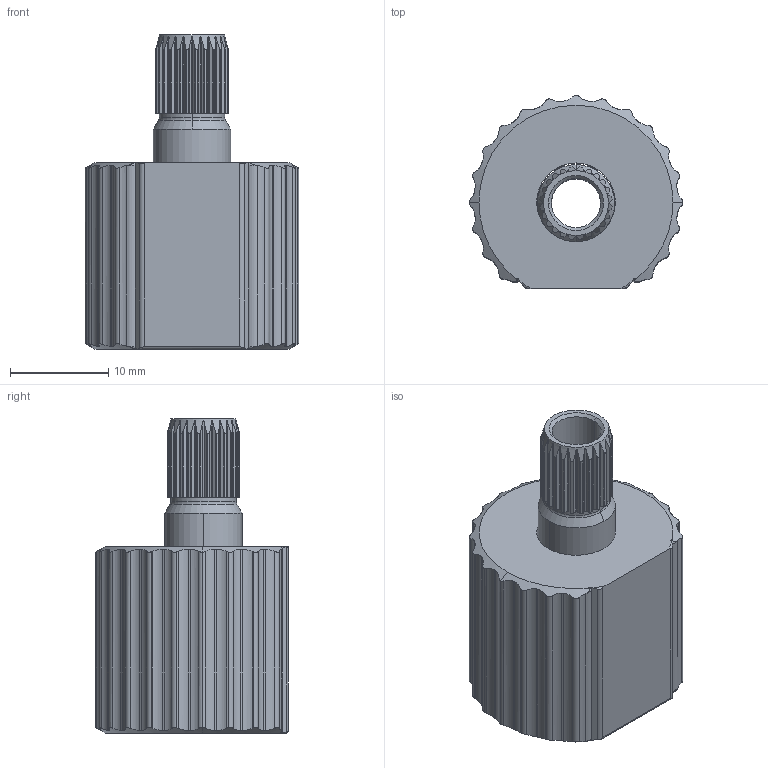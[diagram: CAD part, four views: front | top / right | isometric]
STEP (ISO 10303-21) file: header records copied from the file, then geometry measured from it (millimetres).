
FILE_DESCRIPTION (( 'STEP AP214' ), '1' );
FILE_NAME ('HTI-360-X.X-01-XX rev A FOR 2 or 3 Nm.STEP', '2025-11-03T21:16:02', ( '' ), ( '' ), 'SwSTEP 2.0', 'SolidWorks 2024', '' );
FILE_SCHEMA (( 'AUTOMOTIVE_DESIGN' ));
Length unit declared in the file: millimetre
Products named in the file (6): 113231_Customer STEP; 113233_Customer STEP; 113226_Customer STEP; 83820-005_Customer STEP; HTI-360-X.X-01-XX rev A FOR 2 or 3 Nm; 113225_Customer STEP
Assembly tree (5 placements, depth 5):
  HTI-360-X.X-01-XX rev A FOR 2 or 3 Nm
    113233_Customer STEP
      113231_Customer STEP
        113226_Customer STEP
          113225_Customer STEP
    83820-005_Customer STEP
Bounding box: 21.75 x 19.62 x 32 mm (x, y, z)
Volume: 6227.3 mm3; surface area: 3713.7 mm2
Topology: 2 solids, 2 shells, 429 faces, 1156 edges, 731 vertices
Faces by surface type: cylinder 208, torus 118, plane 83, cone 20
Entity records: 15127 total; most frequent: CARTESIAN_POINT 4568, ORIENTED_EDGE 2312, DIRECTION 2119, EDGE_CURVE 1156, AXIS2_PLACEMENT_3D 892, VERTEX_POINT 731, CIRCLE 452, EDGE_LOOP 433
